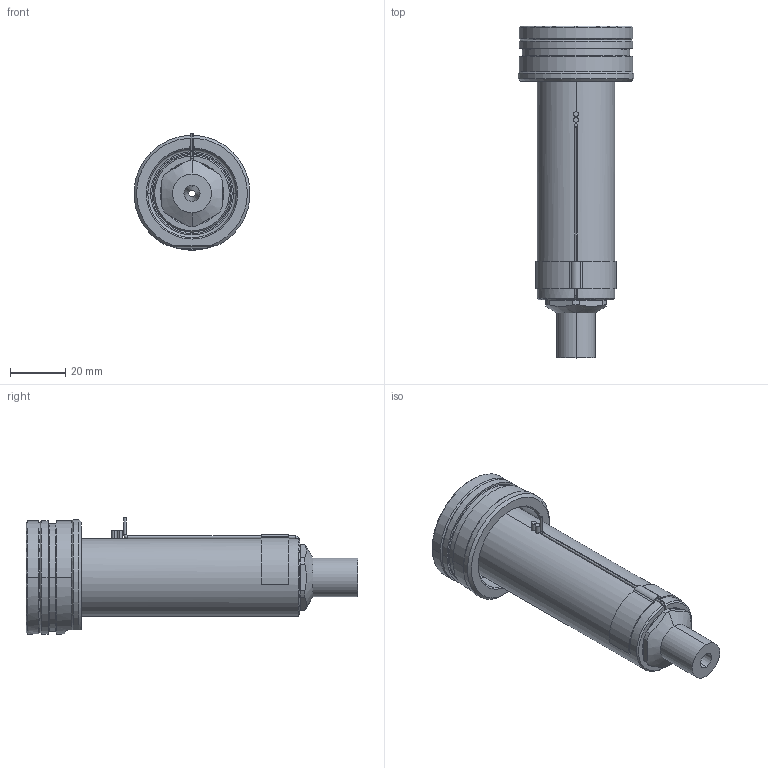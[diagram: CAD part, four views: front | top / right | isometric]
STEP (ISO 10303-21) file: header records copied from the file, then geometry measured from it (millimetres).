
FILE_DESCRIPTION((''),'2;1');
FILE_NAME('EO10_VG-ST_ESG_090_SW','2024-02-19T12:48:05',('sundharh'),(''),'CREO PARAMETRIC BY PTC INC, 2023154','CREO PARAMETRIC BY PTC INC, 2023154','');
FILE_SCHEMA(('CONFIG_CONTROL_DESIGN'));
Length unit declared in the file: millimetre
Products named in the file (1): EO10_VG-ST_ESG_090_SW
Bounding box: 41.85 x 120 x 42.02 mm (x, y, z)
Volume: 68676.4 mm3; surface area: 19619.2 mm2
Topology: 1 solids, 1 shells, 165 faces, 424 edges, 263 vertices
Faces by surface type: cylinder 63, plane 45, cone 33, torus 17, bspline 5, sphere 2
Entity records: 5750 total; most frequent: CARTESIAN_POINT 1646, DIRECTION 895, ORIENTED_EDGE 844, EDGE_CURVE 422, AXIS2_PLACEMENT_3D 369, VERTEX_POINT 263, CIRCLE 209, EDGE_LOOP 179
